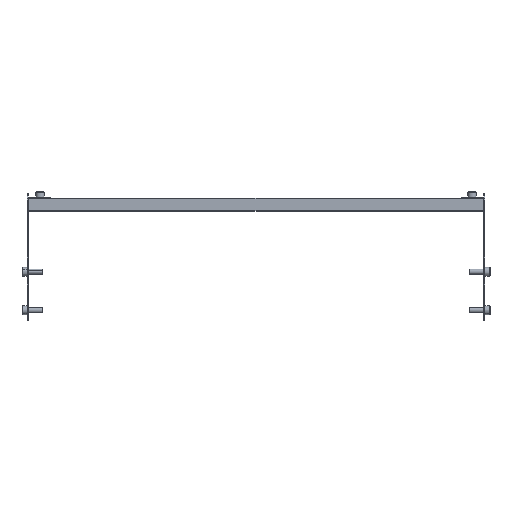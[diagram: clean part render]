
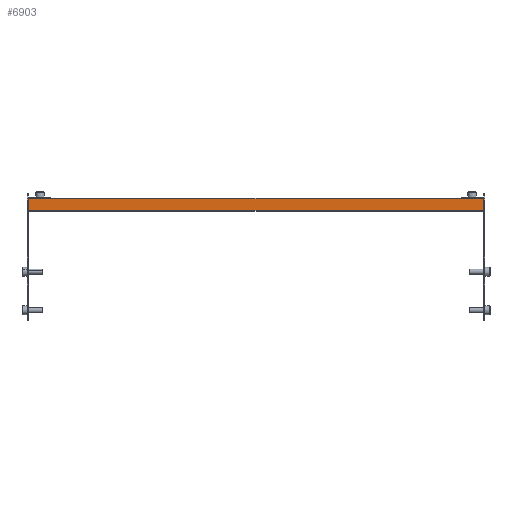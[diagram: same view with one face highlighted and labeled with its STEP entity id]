
A CAD part, front view. The second image highlights one B-rep face of the part: STEP entity #6903.
In plain terms, the highlighted planar face has unit normal (0, -1, 0) as drawn and (1, 0, 0) by its records, which use the part's own axes.
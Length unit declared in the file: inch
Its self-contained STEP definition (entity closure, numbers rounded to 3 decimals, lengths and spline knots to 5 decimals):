
#5262=DIRECTION('',(0.,-1.,0.));
#5263=VECTOR('',#5262,0.53055);
#5264=CARTESIAN_POINT('',(0.78127,0.26528,-10.30175));
#5265=LINE('',#5264,#5263);
#5925=DIRECTION('',(0.,0.,-1.));
#5926=VECTOR('',#5925,20.6035);
#5927=CARTESIAN_POINT('',(0.78127,0.26528,10.30175));
#5928=LINE('',#5927,#5926);
#5929=DIRECTION('',(0.,-1.,0.));
#5930=VECTOR('',#5929,0.53055);
#5931=CARTESIAN_POINT('',(0.78127,0.26528,10.30175));
#5932=LINE('',#5931,#5930);
#5933=DIRECTION('',(0.,0.,1.));
#5934=VECTOR('',#5933,20.6035);
#5935=CARTESIAN_POINT('',(0.78127,-0.26528,-10.30175));
#5936=LINE('',#5935,#5934);
#6291=CARTESIAN_POINT('',(0.78127,0.26528,10.30175));
#6293=VERTEX_POINT('',#6291);
#6349=CARTESIAN_POINT('',(0.78127,0.26528,-10.30175));
#6350=CARTESIAN_POINT('',(0.78127,-0.26528,-10.30175));
#6351=VERTEX_POINT('',#6349);
#6352=VERTEX_POINT('',#6350);
#6389=CARTESIAN_POINT('',(0.78127,-0.26528,10.30175));
#6390=VERTEX_POINT('',#6389);
#6891=CARTESIAN_POINT('',(0.78127,0.29528,10.30175));
#6892=DIRECTION('',(-1.,0.,0.));
#6893=DIRECTION('',(0.,0.,1.));
#6894=AXIS2_PLACEMENT_3D('',#6891,#6892,#6893);
#6895=PLANE('',#6894);
#6896=ORIENTED_EDGE('',*,*,#6691,.F.);
#6897=ORIENTED_EDGE('',*,*,#6886,.T.);
#6898=ORIENTED_EDGE('',*,*,#6541,.T.);
#6900=ORIENTED_EDGE('',*,*,#6899,.T.);
#6901=EDGE_LOOP('',(#6896,#6897,#6898,#6900));
#6902=FACE_OUTER_BOUND('',#6901,.F.);
#6541=EDGE_CURVE('',#6351,#6352,#5265,.T.);
#6691=EDGE_CURVE('',#6293,#6390,#5932,.T.);
#6886=EDGE_CURVE('',#6293,#6351,#5928,.T.);
#6899=EDGE_CURVE('',#6352,#6390,#5936,.T.);
#6903=ADVANCED_FACE('',(#6902),#6895,.F.);
